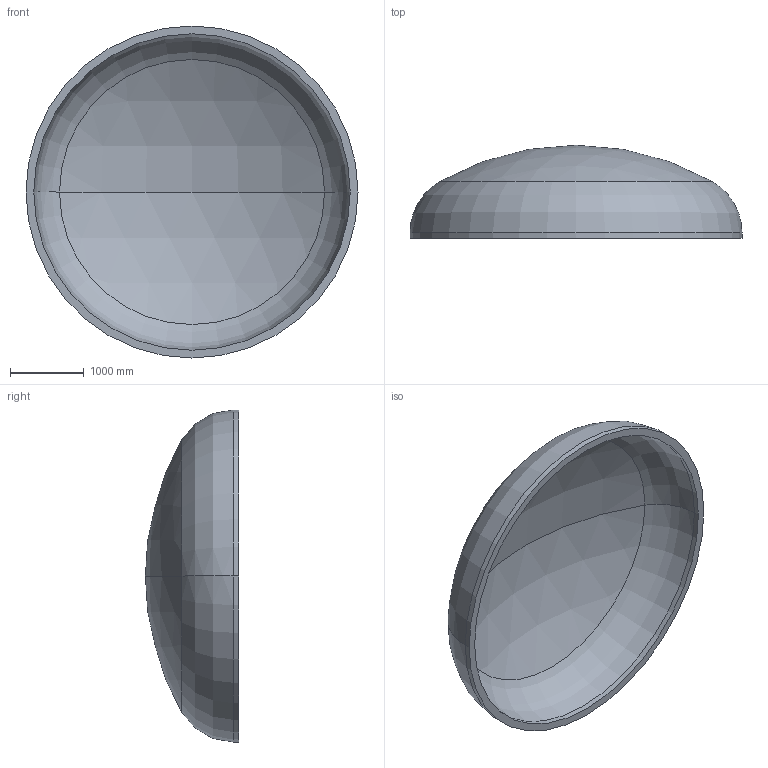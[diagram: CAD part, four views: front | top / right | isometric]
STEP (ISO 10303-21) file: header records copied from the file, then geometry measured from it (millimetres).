
FILE_DESCRIPTION (( 'STEP AP203' ), '1' );
FILE_NAME ('DIN 28013 Korbbogenform_-_Boden DIN 28013 - 4500 x 75 - I - s=106.step', '2016-07-01T23:53:38', ( '' ), ( '' ), 'SwSTEP 2.0', 'SolidWorks 2013', '' );
FILE_SCHEMA (( 'CONFIG_CONTROL_DESIGN' ));
Length unit declared in the file: millimetre
Products named in the file (1): DIN 28013 Korbbogenform_-_Boden DIN 28013 - 4500 x 75 - I - s=106
Bounding box: 4500 x 1263.18 x 4500 mm (x, y, z)
Volume: 2374820252.5 mm3; surface area: 46294686.7 mm2
Topology: 1 solids, 1 shells, 13 faces, 24 edges, 14 vertices
Faces by surface type: torus 4, cylinder 4, sphere 4, plane 1
Entity records: 407 total; most frequent: DIRECTION 72, CARTESIAN_POINT 52, ORIENTED_EDGE 48, AXIS2_PLACEMENT_3D 34, EDGE_CURVE 24, CIRCLE 20, EDGE_LOOP 14, VERTEX_POINT 14
